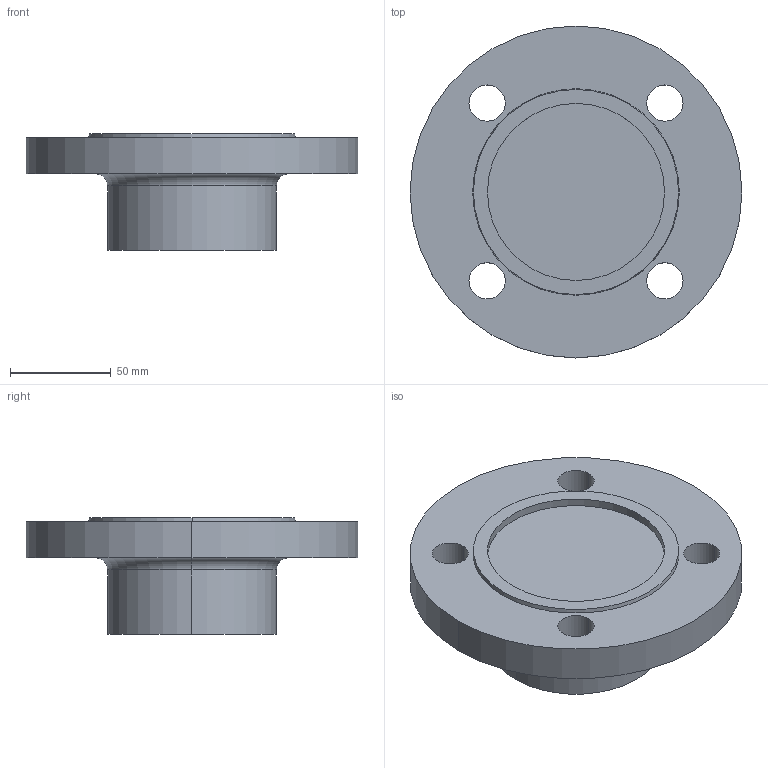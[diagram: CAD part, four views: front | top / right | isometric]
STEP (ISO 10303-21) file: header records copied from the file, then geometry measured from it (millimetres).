
FILE_DESCRIPTION (( 'STEP AP214' ), '1' );
FILE_NAME ('PN40 DN50 Type 21(i) - Type F Face.STEP', '2018-12-30T04:25:53', ( '' ), ( '' ), 'SwSTEP 2.0', 'SolidWorks 2019', '' );
FILE_SCHEMA (( 'AUTOMOTIVE_DESIGN' ));
Length unit declared in the file: millimetre
Products named in the file (1): PN40 DN50 Type 21(i) - Type F Face
Bounding box: 165 x 165 x 58 mm (x, y, z)
Volume: 571381 mm3; surface area: 65141.1 mm2
Topology: 1 solids, 1 shells, 23 faces, 52 edges, 34 vertices
Faces by surface type: cylinder 14, plane 5, torus 2, cone 2
Entity records: 716 total; most frequent: DIRECTION 136, CARTESIAN_POINT 110, ORIENTED_EDGE 104, AXIS2_PLACEMENT_3D 60, EDGE_CURVE 52, CIRCLE 36, EDGE_LOOP 34, VERTEX_POINT 34
